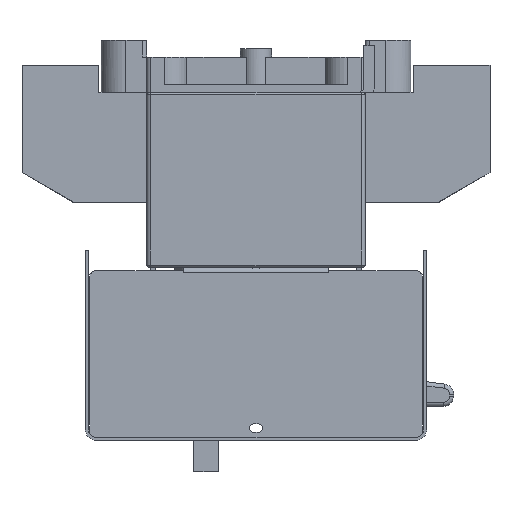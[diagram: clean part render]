
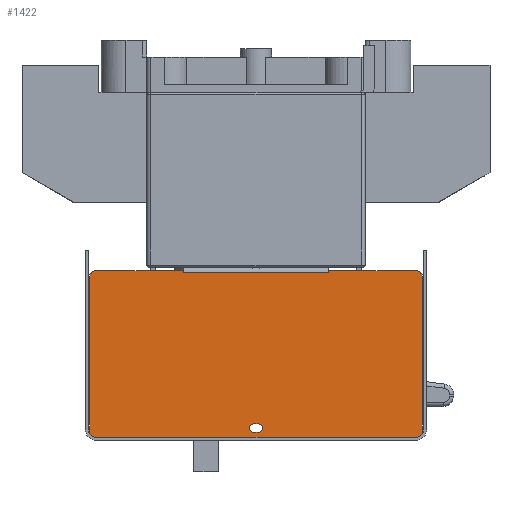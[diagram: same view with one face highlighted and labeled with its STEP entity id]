
A CAD part, left-side view. The second image highlights one B-rep face of the part: STEP entity #1422.
In plain terms, the highlighted planar face has unit normal (-1, 0, 0).
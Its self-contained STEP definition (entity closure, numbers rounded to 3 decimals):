
#667=FACE_BOUND('',#4970,.T.);
#668=FACE_BOUND('',#4971,.T.);
#1422=ADVANCED_FACE('',(#667,#668),#2592,.T.);
#2592=PLANE('',#26290);
#4970=EDGE_LOOP('',(#10025,#10026,#10027,#10028));
#4971=EDGE_LOOP('',(#10029,#10030,#10031,#10032,#10033,#10034,#10035,#10036,
#10037,#10038,#10039,#10040,#10041,#10042));
#6216=CIRCLE('',#26284,2.1);
#6217=CIRCLE('',#26285,2.1);
#6218=CIRCLE('',#26286,3.);
#6219=CIRCLE('',#26287,3.);
#6220=CIRCLE('',#26288,3.);
#6221=CIRCLE('',#26289,3.);
#10025=ORIENTED_EDGE('',*,*,#18002,.T.);
#10026=ORIENTED_EDGE('',*,*,#18003,.T.);
#10027=ORIENTED_EDGE('',*,*,#18004,.T.);
#10028=ORIENTED_EDGE('',*,*,#18005,.T.);
#10029=ORIENTED_EDGE('',*,*,#17981,.F.);
#10030=ORIENTED_EDGE('',*,*,#17979,.T.);
#10031=ORIENTED_EDGE('',*,*,#17966,.T.);
#10032=ORIENTED_EDGE('',*,*,#17983,.T.);
#10033=ORIENTED_EDGE('',*,*,#17986,.F.);
#10034=ORIENTED_EDGE('',*,*,#18006,.T.);
#10035=ORIENTED_EDGE('',*,*,#18007,.T.);
#10036=ORIENTED_EDGE('',*,*,#18008,.T.);
#10037=ORIENTED_EDGE('',*,*,#18009,.T.);
#10038=ORIENTED_EDGE('',*,*,#18010,.T.);
#10039=ORIENTED_EDGE('',*,*,#18011,.T.);
#10040=ORIENTED_EDGE('',*,*,#18012,.T.);
#10041=ORIENTED_EDGE('',*,*,#18013,.T.);
#10042=ORIENTED_EDGE('',*,*,#18014,.T.);
#15070=VERTEX_POINT('',#38261);
#15071=VERTEX_POINT('',#38263);
#15076=VERTEX_POINT('',#38284);
#15079=VERTEX_POINT('',#38292);
#15080=VERTEX_POINT('',#38296);
#15082=VERTEX_POINT('',#38302);
#15096=VERTEX_POINT('',#38334);
#15097=VERTEX_POINT('',#38335);
#15098=VERTEX_POINT('',#38337);
#15099=VERTEX_POINT('',#38339);
#15100=VERTEX_POINT('',#38342);
#15101=VERTEX_POINT('',#38344);
#15102=VERTEX_POINT('',#38346);
#15103=VERTEX_POINT('',#38348);
#15104=VERTEX_POINT('',#38350);
#15105=VERTEX_POINT('',#38352);
#15106=VERTEX_POINT('',#38354);
#15107=VERTEX_POINT('',#38356);
#17966=EDGE_CURVE('',#15071,#15070,#21202,.T.);
#17979=EDGE_CURVE('',#15076,#15071,#21212,.T.);
#17981=EDGE_CURVE('',#15076,#15079,#21214,.T.);
#17983=EDGE_CURVE('',#15070,#15080,#21216,.T.);
#17986=EDGE_CURVE('',#15082,#15080,#21219,.T.);
#18002=EDGE_CURVE('',#15096,#15097,#6216,.T.);
#18003=EDGE_CURVE('',#15097,#15098,#21229,.T.);
#18004=EDGE_CURVE('',#15098,#15099,#6217,.T.);
#18005=EDGE_CURVE('',#15099,#15096,#21230,.T.);
#18006=EDGE_CURVE('',#15082,#15100,#21231,.T.);
#18007=EDGE_CURVE('',#15100,#15101,#6218,.T.);
#18008=EDGE_CURVE('',#15101,#15102,#21232,.T.);
#18009=EDGE_CURVE('',#15102,#15103,#6219,.T.);
#18010=EDGE_CURVE('',#15103,#15104,#21233,.T.);
#18011=EDGE_CURVE('',#15104,#15105,#6220,.T.);
#18012=EDGE_CURVE('',#15105,#15106,#21234,.T.);
#18013=EDGE_CURVE('',#15106,#15107,#6221,.T.);
#18014=EDGE_CURVE('',#15107,#15079,#21235,.T.);
#21202=LINE('',#38262,#23916);
#21212=LINE('',#38287,#23926);
#21214=LINE('',#38291,#23928);
#21216=LINE('',#38295,#23930);
#21219=LINE('',#38301,#23933);
#21229=LINE('',#38336,#23943);
#21230=LINE('',#38340,#23944);
#21231=LINE('',#38341,#23945);
#21232=LINE('',#38345,#23946);
#21233=LINE('',#38349,#23947);
#21234=LINE('',#38353,#23948);
#21235=LINE('',#38357,#23949);
#23916=VECTOR('',#30727,1.);
#23926=VECTOR('',#30753,1.);
#23928=VECTOR('',#30757,1.);
#23930=VECTOR('',#30761,1.);
#23933=VECTOR('',#30766,1.);
#23943=VECTOR('',#30794,1.);
#23944=VECTOR('',#30797,1.);
#23945=VECTOR('',#30798,1.);
#23946=VECTOR('',#30801,1.);
#23947=VECTOR('',#30804,1.);
#23948=VECTOR('',#30807,1.);
#23949=VECTOR('',#30810,1.);
#26284=AXIS2_PLACEMENT_3D('',#38333,#30792,#30793);
#26285=AXIS2_PLACEMENT_3D('',#38338,#30795,#30796);
#26286=AXIS2_PLACEMENT_3D('',#38343,#30799,#30800);
#26287=AXIS2_PLACEMENT_3D('',#38347,#30802,#30803);
#26288=AXIS2_PLACEMENT_3D('',#38351,#30805,#30806);
#26289=AXIS2_PLACEMENT_3D('',#38355,#30808,#30809);
#26290=AXIS2_PLACEMENT_3D('',#38358,#30811,#30812);
#30727=DIRECTION('',(0.,1.,0.));
#30753=DIRECTION('',(0.,1.,0.));
#30757=DIRECTION('',(0.,0.,1.));
#30761=DIRECTION('',(0.,1.,0.));
#30766=DIRECTION('',(0.,0.,-1.));
#30792=DIRECTION('',(1.,0.,0.));
#30793=DIRECTION('',(0.,1.,0.));
#30794=DIRECTION('',(0.,-1.,0.));
#30795=DIRECTION('',(1.,0.,0.));
#30796=DIRECTION('',(0.,1.,0.));
#30797=DIRECTION('',(0.,1.,0.));
#30798=DIRECTION('',(0.,1.,0.));
#30799=DIRECTION('',(-1.,0.,0.));
#30800=DIRECTION('',(0.,1.,0.));
#30801=DIRECTION('',(0.,0.,-1.));
#30802=DIRECTION('',(-1.,0.,0.));
#30803=DIRECTION('',(0.,1.,0.));
#30804=DIRECTION('',(0.,-1.,0.));
#30805=DIRECTION('',(-1.,0.,0.));
#30806=DIRECTION('',(0.,1.,0.));
#30807=DIRECTION('',(0.,0.,1.));
#30808=DIRECTION('',(-1.,0.,0.));
#30809=DIRECTION('',(0.,1.,0.));
#30810=DIRECTION('',(0.,1.,0.));
#30811=DIRECTION('',(-1.,0.,0.));
#30812=DIRECTION('',(0.,-1.,0.));
#38261=CARTESIAN_POINT('',(-189.3,35.,-86.8));
#38262=CARTESIAN_POINT('',(-189.3,50.5,-86.8));
#38263=CARTESIAN_POINT('',(-189.3,-35.,-86.8));
#38284=CARTESIAN_POINT('',(-189.3,-35.002,-86.8));
#38287=CARTESIAN_POINT('',(-189.3,77.,-86.8));
#38291=CARTESIAN_POINT('',(-189.3,-35.002,-162.8));
#38292=CARTESIAN_POINT('',(-189.3,-35.002,-85.8));
#38295=CARTESIAN_POINT('',(-189.3,77.,-86.8));
#38296=CARTESIAN_POINT('',(-189.3,35.002,-86.8));
#38301=CARTESIAN_POINT('',(-189.3,35.002,-162.8));
#38302=CARTESIAN_POINT('',(-189.3,35.002,-85.8));
#38333=CARTESIAN_POINT('',(-189.3,1.,-161.4));
#38334=CARTESIAN_POINT('',(-189.3,1.,-163.5));
#38335=CARTESIAN_POINT('',(-189.3,1.,-159.3));
#38336=CARTESIAN_POINT('',(-189.3,1.,-159.3));
#38337=CARTESIAN_POINT('',(-189.3,-1.,-159.3));
#38338=CARTESIAN_POINT('',(-189.3,-1.,-161.4));
#38339=CARTESIAN_POINT('',(-189.3,-1.,-163.5));
#38340=CARTESIAN_POINT('',(-189.3,-1.,-163.5));
#38341=CARTESIAN_POINT('',(-189.3,-77.,-85.8));
#38342=CARTESIAN_POINT('',(-189.3,77.,-85.8));
#38343=CARTESIAN_POINT('',(-189.3,77.,-88.8));
#38344=CARTESIAN_POINT('',(-189.3,80.,-88.8));
#38345=CARTESIAN_POINT('',(-189.3,80.,-88.8));
#38346=CARTESIAN_POINT('',(-189.3,80.,-162.8));
#38347=CARTESIAN_POINT('',(-189.3,77.,-162.8));
#38348=CARTESIAN_POINT('',(-189.3,77.,-165.8));
#38349=CARTESIAN_POINT('',(-189.3,77.,-165.8));
#38350=CARTESIAN_POINT('',(-189.3,-77.,-165.8));
#38351=CARTESIAN_POINT('',(-189.3,-77.,-162.8));
#38352=CARTESIAN_POINT('',(-189.3,-80.,-162.8));
#38353=CARTESIAN_POINT('',(-189.3,-80.,-162.8));
#38354=CARTESIAN_POINT('',(-189.3,-80.,-88.8));
#38355=CARTESIAN_POINT('',(-189.3,-77.,-88.8));
#38356=CARTESIAN_POINT('',(-189.3,-77.,-85.8));
#38357=CARTESIAN_POINT('',(-189.3,-77.,-85.8));
#38358=CARTESIAN_POINT('',(-189.3,77.,-162.8));
